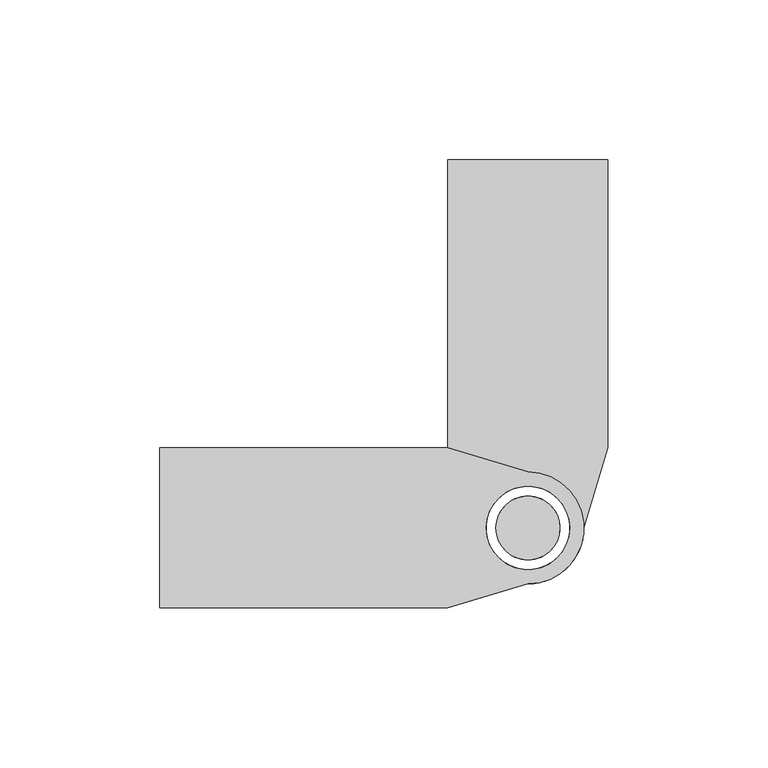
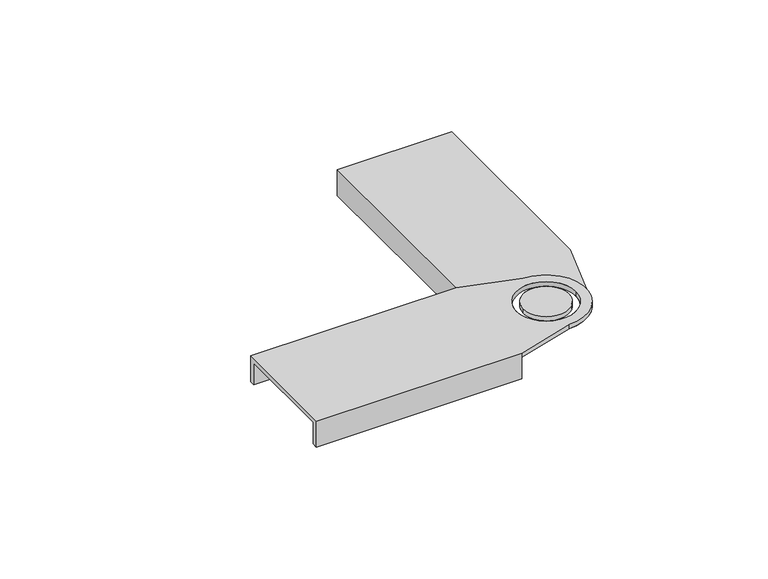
"""IFC4 building model written with IfcOpenShell, lengths in millimetres: cable carrier fitting geometry, BAKS_LD_BEND_Articulated connector_LG : LGC_H45."""

from ifc_helpers import new_model, si_unit, frame, origin, place, context, project, spatial, polyline, circle_curve, source, transform, mapped, element, save
from ifc_brep_helpers import plane_surface, cylinder_surface, revolved_surface, advanced_brep


def cable_carrier_fitting_c0237f39(model_context):
    return source(origin(), model_context, "Body", "AdvancedBrep", [
        advanced_brep(
        [(-115.0, 25.0, 2.0), (-115.0, -25.0, 2.0), (-25.0, -25.0, 2.0), (0.0, -17.5, 2.0), (0.0, 17.5, 2.0), (-25.0, 25.0, 2.0), (13.0, 0.0, 2.0), (-13.0, 0.0, 2.0), (-25.0, -25.0, 0.0), (-25.0, -22.5, 0.0), (-115.0, -22.5, 0.0), (-115.0, 22.5, 0.0), (-25.0, 22.5, 0.0), (-25.0, 25.0, 0.0), (0.0, 17.5, 0.0), (0.0, -17.5, 0.0), (-13.0, 0.0, 0.0), (13.0, 0.0, 0.0), (-25.0, 25.0, -10.0), (-115.0, 25.0, -10.0), (-115.0, -25.0, -10.0), (-25.0, -25.0, -10.0), (-115.0, 22.5, -10.0), (-115.0, -22.5, -10.0), (-25.0, -22.5, -10.0), (-25.0, 22.5, -10.0)],
        [
            (0, 1),
            (1, 2),
            (2, 3),
            (3, 4, circle_curve(frame((0.0, 0.0, 2.0), z_axis=(0.0, 0.0, 1.0), x_axis=(-1.0, 0.0, 0.0)), 17.5)),
            (4, 5),
            (5, 0),
            (6, 7, circle_curve(frame((0.0, 0.0, 2.0), z_axis=(0.0, 0.0, -1.0), x_axis=(-1.0, 0.0, 0.0)), 13.0)),
            (7, 6, circle_curve(frame((0.0, 0.0, 2.0), z_axis=(0.0, 0.0, -1.0), x_axis=(-1.0, 0.0, 0.0)), 13.0)),
            (8, 9),
            (9, 10),
            (10, 11),
            (11, 12),
            (12, 13),
            (13, 14),
            (14, 15, circle_curve(frame((0.0, 0.0, 0.0), z_axis=(0.0, 0.0, -1.0), x_axis=(-1.0, 0.0, 0.0)), 17.5)),
            (15, 8),
            (16, 17, circle_curve(frame((0.0, 0.0, 0.0), z_axis=(0.0, 0.0, 1.0), x_axis=(-1.0, 0.0, 0.0)), 13.0)),
            (17, 16, circle_curve(frame((0.0, 0.0, 0.0), z_axis=(0.0, 0.0, 1.0), x_axis=(-1.0, 0.0, 0.0)), 13.0)),
            (5, 13),
            (13, 18),
            (18, 19),
            (19, 0),
            (1, 20),
            (20, 21),
            (21, 8),
            (8, 2),
            (19, 22),
            (22, 11),
            (10, 23),
            (23, 20),
            (7, 16),
            (17, 6),
            (4, 14),
            (3, 15),
            (23, 24),
            (24, 21),
            (9, 24),
            (18, 25),
            (25, 22),
            (12, 25),
        ],
        [
            plane_surface(frame((-25.0, 25.0, 2.0), z_axis=(0.0, 0.0, 1.0), x_axis=(1.0, 0.0, 0.0))),
            plane_surface(frame((-25.0, 25.0, 0.0), z_axis=(0.0, 0.0, -1.0), x_axis=(-1.0, 0.0, 0.0))),
            plane_surface(frame((-115.0, 25.0, 2.0), z_axis=(0.0, 1.0, 0.0), x_axis=(0.0, 0.0, -1.0))),
            plane_surface(frame((-25.0, -25.0, 2.0), z_axis=(0.0, -1.0, 0.0), x_axis=(0.0, 0.0, -1.0))),
            plane_surface(frame((-115.0, -25.0, 2.0), z_axis=(-1.0, 0.0, 0.0), x_axis=(0.0, 0.0, -1.0))),
            revolved_surface(polyline([(-13.0, 0.0, 2.0), (-13.0, 0.0, 0.0)]), (0.0, 0.0, 0.0), (0.0, 0.0, 1.0)),
            plane_surface(frame((-25.0, 25.0, 2.0), z_axis=(0.28734788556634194, 0.9578262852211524, 0.0), x_axis=(0.0, 0.0, -1.0))),
            cylinder_surface(frame((0.0, 0.0, 0.0), z_axis=(0.0, 0.0, 1.0), x_axis=(-1.0, 0.0, 0.0)), 17.5),
            plane_surface(frame((0.0, -17.5, 2.0), z_axis=(0.2873478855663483, -0.9578262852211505, 0.0), x_axis=(0.0, 0.0, -1.0))),
            plane_surface(frame((-25.0, -22.5, -10.0), z_axis=(0.0, 0.0, -1.0), x_axis=(-1.0, 0.0, 0.0))),
            plane_surface(frame((-115.0, -22.5, 0.0), z_axis=(0.0, 1.0, 0.0), x_axis=(0.0, 0.0, -1.0))),
            plane_surface(frame((-25.0, -22.5, 0.0), z_axis=(1.0, 0.0, 0.0), x_axis=(0.0, 0.0, -1.0))),
            plane_surface(frame((-25.0, 25.0, -10.0), z_axis=(0.0, 0.0, -1.0), x_axis=(-1.0, 0.0, 0.0))),
            plane_surface(frame((-25.0, 25.0, 0.0), z_axis=(1.0, 0.0, 0.0), x_axis=(0.0, 0.0, -1.0))),
            plane_surface(frame((-25.0, 22.5, 0.0), z_axis=(0.0, -1.0, 0.0), x_axis=(0.0, 0.0, -1.0))),
        ],
        [
            (0, [[1, 2, 3, 4, 5, 6], [7, 8]]),
            (1, [[9, 10, 11, 12, 13, 14, 15, 16], [17, 18]]),
            (2, [[19, 20, 21, 22, -6]]),
            (3, [[23, 24, 25, 26, -2]]),
            (4, [[27, 28, -11, 29, 30, -23, -1, -22]]),
            (5, [[-8, 31, -18, 32]]),
            (5, [[-17, -31, -7, -32]]),
            (6, [[33, -14, -19, -5]]),
            (7, [[34, -15, -33, -4]]),
            (8, [[-26, -16, -34, -3]]),
            (9, [[35, 36, -24, -30]]),
            (10, [[-29, -10, 37, -35]]),
            (11, [[-37, -9, -25, -36]]),
            (12, [[-21, 38, 39, -27]]),
            (13, [[-20, -13, 40, -38]]),
            (14, [[-40, -12, -28, -39]]),
        ],
    ),
        advanced_brep(
        [(10.0, 0.0, 2.0), (-10.0, 0.0, 2.0), (-10.0, 0.0, 0.0), (10.0, 0.0, 0.0)],
        [
            (0, 1, circle_curve(frame((0.0, 0.0, 2.0), z_axis=(0.0, 0.0, 1.0), x_axis=(-1.0, 0.0, 0.0)), 10.0)),
            (1, 0, circle_curve(frame((0.0, 0.0, 2.0), z_axis=(0.0, 0.0, 1.0), x_axis=(-1.0, 0.0, 0.0)), 10.0)),
            (2, 3, circle_curve(frame((0.0, 0.0, 0.0), z_axis=(0.0, 0.0, -1.0), x_axis=(-1.0, 0.0, 0.0)), 10.0)),
            (3, 2, circle_curve(frame((0.0, 0.0, 0.0), z_axis=(0.0, 0.0, -1.0), x_axis=(-1.0, 0.0, 0.0)), 10.0)),
            (1, 2),
            (3, 0),
        ],
        [
            plane_surface(frame((-25.0, 25.0, 2.0), z_axis=(0.0, 0.0, 1.0), x_axis=(1.0, 0.0, 0.0))),
            plane_surface(frame((-25.0, 25.0, 0.0), z_axis=(0.0, 0.0, -1.0), x_axis=(-1.0, 0.0, 0.0))),
            cylinder_surface(frame((0.0, 0.0, 0.0), z_axis=(0.0, 0.0, -1.0), x_axis=(-1.0, 0.0, 0.0)), 10.0),
        ],
        [
            (0, [[1, 2]]),
            (1, [[3, 4]]),
            (2, [[-2, 5, -4, 6]]),
            (2, [[-3, -5, -1, -6]]),
        ],
    ),
        advanced_brep(
        [(-25.0, 115.0, 2.0), (-25.0, 25.0, 2.0), (-17.5, 0.0, 2.0), (17.5, 0.0, 2.0), (25.0, 25.0, 2.0), (25.0, 115.0, 2.0), (0.0, -13.0, 2.0), (0.0, 13.0, 2.0), (25.0, 25.0, 0.0), (17.5, 0.0, 0.0), (-17.5, 0.0, 0.0), (-25.0, 25.0, 0.0), (-22.5, 25.0, 0.0), (-22.5, 115.0, 0.0), (22.5, 115.0, 0.0), (22.5, 25.0, 0.0), (0.0, 13.0, 0.0), (0.0, -13.0, 0.0), (-25.0, 115.0, -10.0), (-25.0, 25.0, -10.0), (25.0, 25.0, -10.0), (25.0, 115.0, -10.0), (22.5, 115.0, -10.0), (-22.5, 115.0, -10.0), (22.5, 25.0, -10.0), (-22.5, 25.0, -10.0)],
        [
            (0, 1),
            (1, 2),
            (2, 3, circle_curve(frame((0.0, 0.0, 2.0), z_axis=(0.0, 0.0, 1.0), x_axis=(0.0, 1.0, 0.0)), 17.5)),
            (3, 4),
            (4, 5),
            (5, 0),
            (6, 7, circle_curve(frame((0.0, 0.0, 2.0), z_axis=(0.0, 0.0, -1.0), x_axis=(0.0, 1.0, 0.0)), 13.0)),
            (7, 6, circle_curve(frame((0.0, 0.0, 2.0), z_axis=(0.0, 0.0, -1.0), x_axis=(0.0, 1.0, 0.0)), 13.0)),
            (8, 9),
            (9, 10, circle_curve(frame((0.0, 0.0, 0.0), z_axis=(0.0, 0.0, -1.0), x_axis=(0.0, 1.0, 0.0)), 17.5)),
            (10, 11),
            (11, 12),
            (12, 13),
            (13, 14),
            (14, 15),
            (15, 8),
            (16, 17, circle_curve(frame((0.0, 0.0, 0.0), z_axis=(0.0, 0.0, 1.0), x_axis=(0.0, 1.0, 0.0)), 13.0)),
            (17, 16, circle_curve(frame((0.0, 0.0, 0.0), z_axis=(0.0, 0.0, 1.0), x_axis=(0.0, 1.0, 0.0)), 13.0)),
            (0, 18),
            (18, 19),
            (19, 11),
            (11, 1),
            (4, 8),
            (8, 20),
            (20, 21),
            (21, 5),
            (21, 22),
            (22, 14),
            (13, 23),
            (23, 18),
            (6, 17),
            (16, 7),
            (10, 2),
            (9, 3),
            (20, 24),
            (24, 22),
            (24, 15),
            (23, 25),
            (25, 19),
            (25, 12),
        ],
        [
            plane_surface(frame((-25.0, 25.0, 2.0), z_axis=(0.0, 0.0, 1.0), x_axis=(0.0, -1.0, 0.0))),
            plane_surface(frame((-25.0, 25.0, 0.0), z_axis=(0.0, 0.0, -1.0), x_axis=(0.0, 1.0, 0.0))),
            plane_surface(frame((-25.0, 115.0, 2.0), z_axis=(-1.0, 0.0, 0.0), x_axis=(0.0, 0.0, -1.0))),
            plane_surface(frame((25.0, 25.0, 2.0), z_axis=(1.0, 0.0, 0.0), x_axis=(0.0, 0.0, -1.0))),
            plane_surface(frame((25.0, 115.0, 2.0), z_axis=(0.0, 1.0, 0.0), x_axis=(0.0, 0.0, -1.0))),
            revolved_surface(polyline([(0.0, 13.0, 2.0), (0.0, 13.0, 0.0)]), (0.0, 0.0, 0.0), (0.0, 0.0, 1.0)),
            plane_surface(frame((-25.0, 25.0, 2.0), z_axis=(-0.9578262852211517, -0.2873478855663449, 0.0), x_axis=(0.0, 0.0, -1.0))),
            cylinder_surface(frame((0.0, 0.0, 0.0), z_axis=(0.0, 0.0, 1.0), x_axis=(0.0, 1.0, 0.0)), 17.5),
            plane_surface(frame((17.5, 0.0, 2.0), z_axis=(0.9578262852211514, -0.28734788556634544, 0.0), x_axis=(0.0, 0.0, -1.0))),
            plane_surface(frame((22.5, 25.0, -10.0), z_axis=(0.0, 0.0, -1.0), x_axis=(0.0, 1.0, 0.0))),
            plane_surface(frame((22.5, 115.0, 0.0), z_axis=(-1.0, 0.0, 0.0), x_axis=(0.0, 0.0, -1.0))),
            plane_surface(frame((22.5, 25.0, 0.0), z_axis=(0.0, -1.0, 0.0), x_axis=(0.0, 0.0, -1.0))),
            plane_surface(frame((-25.0, 25.0, -10.0), z_axis=(0.0, 0.0, -1.0), x_axis=(0.0, 1.0, 0.0))),
            plane_surface(frame((-25.0, 25.0, 0.0), z_axis=(0.0, -1.0, 0.0), x_axis=(0.0, 0.0, -1.0))),
            plane_surface(frame((-22.5, 25.0, 0.0), z_axis=(1.0, 0.0, 0.0), x_axis=(0.0, 0.0, -1.0))),
        ],
        [
            (0, [[1, 2, 3, 4, 5, 6], [7, 8]]),
            (1, [[9, 10, 11, 12, 13, 14, 15, 16], [17, 18]]),
            (2, [[-1, 19, 20, 21, 22]]),
            (3, [[-5, 23, 24, 25, 26]]),
            (4, [[-19, -6, -26, 27, 28, -14, 29, 30]]),
            (5, [[31, -17, 32, -7]]),
            (5, [[-31, -8, -32, -18]]),
            (6, [[-2, -22, -11, 33]]),
            (7, [[-3, -33, -10, 34]]),
            (8, [[-4, -34, -9, -23]]),
            (9, [[-27, -25, 35, 36]]),
            (10, [[-36, 37, -15, -28]]),
            (11, [[-35, -24, -16, -37]]),
            (12, [[-30, 38, 39, -20]]),
            (13, [[-39, 40, -12, -21]]),
            (14, [[-38, -29, -13, -40]]),
        ],
    ),
        advanced_brep(
        [(0.0, -10.0, 2.0), (0.0, 10.0, 2.0), (0.0, 10.0, 0.0), (0.0, -10.0, 0.0)],
        [
            (0, 1, circle_curve(frame((0.0, 0.0, 2.0), z_axis=(0.0, 0.0, 1.0), x_axis=(0.0, 1.0, 0.0)), 10.0)),
            (1, 0, circle_curve(frame((0.0, 0.0, 2.0), z_axis=(0.0, 0.0, 1.0), x_axis=(0.0, 1.0, 0.0)), 10.0)),
            (2, 3, circle_curve(frame((0.0, 0.0, 0.0), z_axis=(0.0, 0.0, -1.0), x_axis=(0.0, 1.0, 0.0)), 10.0)),
            (3, 2, circle_curve(frame((0.0, 0.0, 0.0), z_axis=(0.0, 0.0, -1.0), x_axis=(0.0, 1.0, 0.0)), 10.0)),
            (0, 3),
            (2, 1),
        ],
        [
            plane_surface(frame((-25.0, 25.0, 2.0), z_axis=(0.0, 0.0, 1.0), x_axis=(0.0, -1.0, 0.0))),
            plane_surface(frame((-25.0, 25.0, 0.0), z_axis=(0.0, 0.0, -1.0), x_axis=(0.0, 1.0, 0.0))),
            cylinder_surface(frame((0.0, 0.0, 0.0), z_axis=(0.0, 0.0, -1.0), x_axis=(0.0, 1.0, 0.0)), 10.0),
        ],
        [
            (0, [[1, 2]]),
            (1, [[3, 4]]),
            (2, [[5, -3, 6, -1]]),
            (2, [[-5, -2, -6, -4]]),
        ],
    ),
    ])


if __name__ == "__main__":
    model = new_model("IFC4")
    model_context = context("Model", 3, world=origin())
    ifc_project = project(units=[si_unit("LENGTHUNIT", "METRE", prefix="MILLI")], contexts=[model_context])
    site = spatial("IfcSite", under=ifc_project)
    building = spatial("IfcBuilding", under=site)
    placement = place(None, origin())
    cable_carrier_fitting_shape = cable_carrier_fitting_c0237f39(model_context)
    element("IfcCableCarrierFitting", 1, ObjectType="BAKS_LD_BEND_Articulated connector_LG : LGC_H45", at=placement, inside=building, context=model_context, shape_type="MappedRepresentation", body=[
        mapped(cable_carrier_fitting_shape, transform((0.0, 0.0, 0.0), x_axis=(1.0, 0.0, 0.0), y_axis=(0.0, 1.0, 0.0), z_axis=(0.0, 0.0, 1.0))),
    ])
    save(model, "model.ifc")
